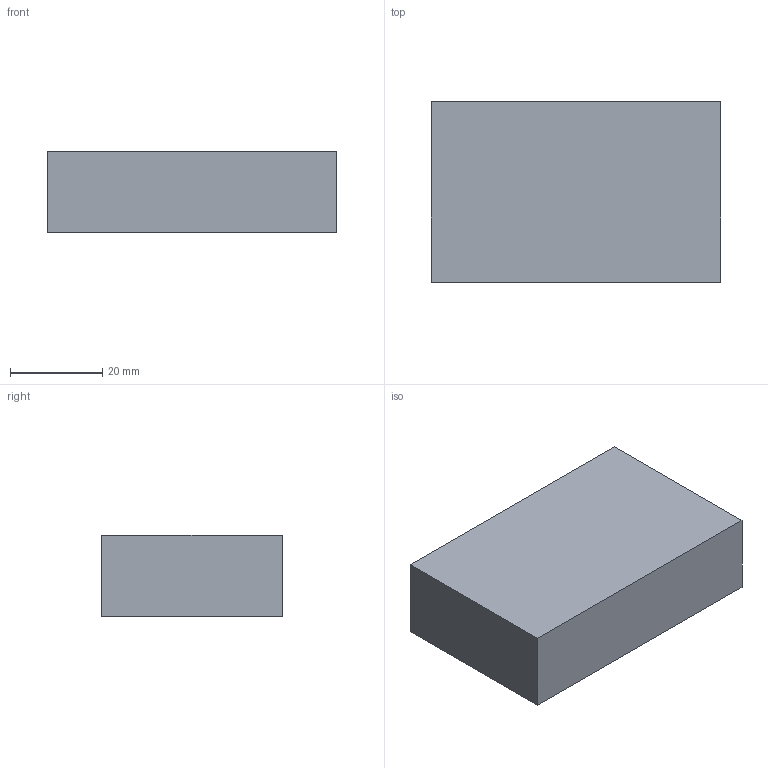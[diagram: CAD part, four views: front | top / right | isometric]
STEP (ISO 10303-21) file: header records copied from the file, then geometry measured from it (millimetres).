
FILE_DESCRIPTION(('Open CASCADE Model'),'2;1');
FILE_NAME('Open CASCADE Shape Model','2026-09-15T13:06:29',('Author'),( 'Open CASCADE'),'Open CASCADE STEP processor 7.7','Open CASCADE 7.7' ,'Unknown');
FILE_SCHEMA(('AUTOMOTIVE_DESIGN { 1 0 10303 214 1 1 1 1 }'));
Length unit declared in the file: millimetre
Products named in the file (1): Open CASCADE STEP translator 7.7 6
Bounding box: 62.6 x 39.1 x 17.75 mm (x, y, z)
Volume: 43446 mm3; surface area: 8505.7 mm2
Topology: 1 solids, 1 shells, 6 faces, 12 edges, 8 vertices
Faces by surface type: plane 6
Entity records: 322 total; most frequent: CARTESIAN_POINT 51, DIRECTION 50, LINE 36, VECTOR 36, ORIENTED_EDGE 24, PCURVE 24, DEFINITIONAL_REPRESENTATION 24, EDGE_CURVE 12
